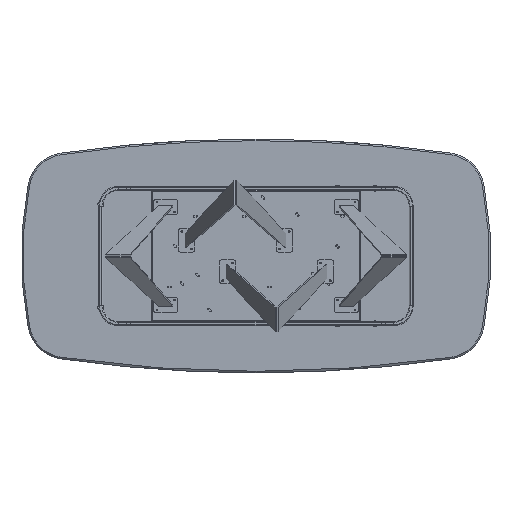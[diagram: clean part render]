
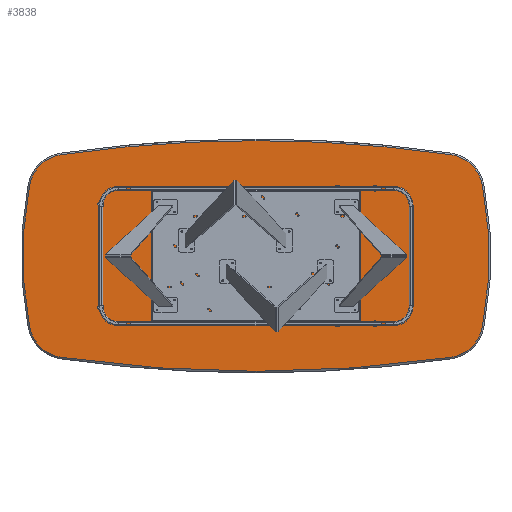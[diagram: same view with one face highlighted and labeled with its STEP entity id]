
A CAD part, front view. The second image highlights one B-rep face of the part: STEP entity #3838.
In plain terms, the highlighted planar face has unit normal (0, -1, 0).
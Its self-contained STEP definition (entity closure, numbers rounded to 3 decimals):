
#9 = AXIS2_PLACEMENT_3D ( 'NONE', #10102, #8517, #14957 ) ;
#113 = VERTEX_POINT ( 'NONE', #2412 ) ;
#160 = VERTEX_POINT ( 'NONE', #8722 ) ;
#537 = ORIENTED_EDGE ( 'NONE', *, *, #1557, .T. ) ;
#538 = DIRECTION ( 'NONE',  ( 0., 0., 1. ) ) ;
#722 = CARTESIAN_POINT ( 'NONE',  ( 963.472, 0., 325.885 ) ) ;
#854 = FACE_OUTER_BOUND ( 'NONE', #5736, .T. ) ;
#1058 = DIRECTION ( 'NONE',  ( 0., 0., 1. ) ) ;
#1144 = CARTESIAN_POINT ( 'NONE',  ( 0., 0., -6355. ) ) ;
#1195 = AXIS2_PLACEMENT_3D ( 'NONE', #722, #8281, #13361 ) ;
#1502 = DIRECTION ( 'NONE',  ( 0., 0., 1. ) ) ;
#1557 = EDGE_CURVE ( 'NONE', #16164, #8576, #3185, .T. ) ;
#1631 = AXIS2_PLACEMENT_3D ( 'NONE', #17200, #20498, #2750 ) ;
#1925 = ORIENTED_EDGE ( 'NONE', *, *, #4984, .T. ) ;
#2076 = EDGE_CURVE ( 'NONE', #8576, #160, #3877, .T. ) ;
#2187 = ORIENTED_EDGE ( 'NONE', *, *, #5914, .T. ) ;
#2232 = EDGE_CURVE ( 'NONE', #4133, #16164, #3201, .T. ) ;
#2408 = DIRECTION ( 'NONE',  ( 0., 0., 1. ) ) ;
#2412 = CARTESIAN_POINT ( 'NONE',  ( -1151.911, 0., 362.691 ) ) ;
#2728 = AXIS2_PLACEMENT_3D ( 'NONE', #11437, #19931, #16417 ) ;
#2750 = DIRECTION ( 'NONE',  ( 0., 0., 1. ) ) ;
#3076 = DIRECTION ( 'NONE',  ( 0., -1., 0. ) ) ;
#3185 = CIRCLE ( 'NONE', #13959, 1892. ) ;
#3201 = CIRCLE ( 'NONE', #8574, 192. ) ;
#3256 = CIRCLE ( 'NONE', #18064, 6942. ) ;
#3317 = CIRCLE ( 'NONE', #1631, 192. ) ;
#3838 = ADVANCED_FACE ( 'NONE', ( #854 ), #20276, .F. ) ;
#3877 = CIRCLE ( 'NONE', #1195, 192. ) ;
#3942 = AXIS2_PLACEMENT_3D ( 'NONE', #6504, #11642, #18302 ) ;
#4133 = VERTEX_POINT ( 'NONE', #16433 ) ;
#4299 = DIRECTION ( 'NONE',  ( 0., -1., 0. ) ) ;
#4984 = EDGE_CURVE ( 'NONE', #160, #13172, #3256, .T. ) ;
#5585 = ORIENTED_EDGE ( 'NONE', *, *, #2076, .T. ) ;
#5617 = CIRCLE ( 'NONE', #3942, 192. ) ;
#5736 = EDGE_LOOP ( 'NONE', ( #13088, #12453, #20627, #537, #5585, #1925, #2187, #19305, #17470 ) ) ;
#5795 = DIRECTION ( 'NONE',  ( 0., 1., 0. ) ) ;
#5914 = EDGE_CURVE ( 'NONE', #13172, #7286, #17109, .T. ) ;
#6504 = CARTESIAN_POINT ( 'NONE',  ( -963.472, 0., -325.885 ) ) ;
#7286 = VERTEX_POINT ( 'NONE', #14417 ) ;
#7903 = AXIS2_PLACEMENT_3D ( 'NONE', #18245, #5795, #1058 ) ;
#8234 = CARTESIAN_POINT ( 'NONE',  ( 0., 0., 587. ) ) ;
#8281 = DIRECTION ( 'NONE',  ( 0., -1., 0. ) ) ;
#8517 = DIRECTION ( 'NONE',  ( 0., -1., 0. ) ) ;
#8574 = AXIS2_PLACEMENT_3D ( 'NONE', #10713, #15664, #2408 ) ;
#8576 = VERTEX_POINT ( 'NONE', #14988 ) ;
#8722 = CARTESIAN_POINT ( 'NONE',  ( 990.878, 0., 515.919 ) ) ;
#10102 = CARTESIAN_POINT ( 'NONE',  ( 0., 0., 6355. ) ) ;
#10713 = CARTESIAN_POINT ( 'NONE',  ( 963.472, 0., -325.885 ) ) ;
#10814 = DIRECTION ( 'NONE',  ( 0., 0., 1. ) ) ;
#11055 = CARTESIAN_POINT ( 'NONE',  ( 1151.911, 0., -362.691 ) ) ;
#11437 = CARTESIAN_POINT ( 'NONE',  ( 705., 0., 0. ) ) ;
#11642 = DIRECTION ( 'NONE',  ( 0., -1., 0. ) ) ;
#12453 = ORIENTED_EDGE ( 'NONE', *, *, #17693, .T. ) ;
#12457 = CARTESIAN_POINT ( 'NONE',  ( 0., 0., -6355. ) ) ;
#12768 = EDGE_CURVE ( 'NONE', #12982, #15234, #5617, .T. ) ;
#12982 = VERTEX_POINT ( 'NONE', #12998 ) ;
#12998 = CARTESIAN_POINT ( 'NONE',  ( -1151.911, 0., -362.691 ) ) ;
#13088 = ORIENTED_EDGE ( 'NONE', *, *, #12768, .T. ) ;
#13172 = VERTEX_POINT ( 'NONE', #8234 ) ;
#13361 = DIRECTION ( 'NONE',  ( 0., 0., 1. ) ) ;
#13959 = AXIS2_PLACEMENT_3D ( 'NONE', #15189, #14971, #538 ) ;
#14024 = CARTESIAN_POINT ( 'NONE',  ( -990.878, 0., -515.919 ) ) ;
#14154 = CIRCLE ( 'NONE', #9, 6942. ) ;
#14417 = CARTESIAN_POINT ( 'NONE',  ( -990.878, 0., 515.919 ) ) ;
#14957 = DIRECTION ( 'NONE',  ( 0., 0., 1. ) ) ;
#14971 = DIRECTION ( 'NONE',  ( 0., -1., 0. ) ) ;
#14988 = CARTESIAN_POINT ( 'NONE',  ( 1151.911, 0., 362.691 ) ) ;
#15189 = CARTESIAN_POINT ( 'NONE',  ( -705., 0., 0. ) ) ;
#15234 = VERTEX_POINT ( 'NONE', #14024 ) ;
#15664 = DIRECTION ( 'NONE',  ( 0., -1., 0. ) ) ;
#15956 = EDGE_CURVE ( 'NONE', #7286, #113, #3317, .T. ) ;
#16164 = VERTEX_POINT ( 'NONE', #11055 ) ;
#16417 = DIRECTION ( 'NONE',  ( 0., 0., 1. ) ) ;
#16433 = CARTESIAN_POINT ( 'NONE',  ( 990.878, 0., -515.919 ) ) ;
#17109 = CIRCLE ( 'NONE', #19820, 6942. ) ;
#17200 = CARTESIAN_POINT ( 'NONE',  ( -963.472, 0., 325.885 ) ) ;
#17470 = ORIENTED_EDGE ( 'NONE', *, *, #18175, .T. ) ;
#17693 = EDGE_CURVE ( 'NONE', #15234, #4133, #14154, .T. ) ;
#18064 = AXIS2_PLACEMENT_3D ( 'NONE', #12457, #3076, #1502 ) ;
#18175 = EDGE_CURVE ( 'NONE', #113, #12982, #18900, .T. ) ;
#18245 = CARTESIAN_POINT ( 'NONE',  ( -352.5, 0., 3177.5 ) ) ;
#18302 = DIRECTION ( 'NONE',  ( 0., 0., 1. ) ) ;
#18900 = CIRCLE ( 'NONE', #2728, 1892. ) ;
#19305 = ORIENTED_EDGE ( 'NONE', *, *, #15956, .T. ) ;
#19820 = AXIS2_PLACEMENT_3D ( 'NONE', #1144, #4299, #10814 ) ;
#19931 = DIRECTION ( 'NONE',  ( 0., -1., 0. ) ) ;
#20276 = PLANE ( 'NONE',  #7903 ) ;
#20498 = DIRECTION ( 'NONE',  ( 0., -1., 0. ) ) ;
#20627 = ORIENTED_EDGE ( 'NONE', *, *, #2232, .T. ) ;
